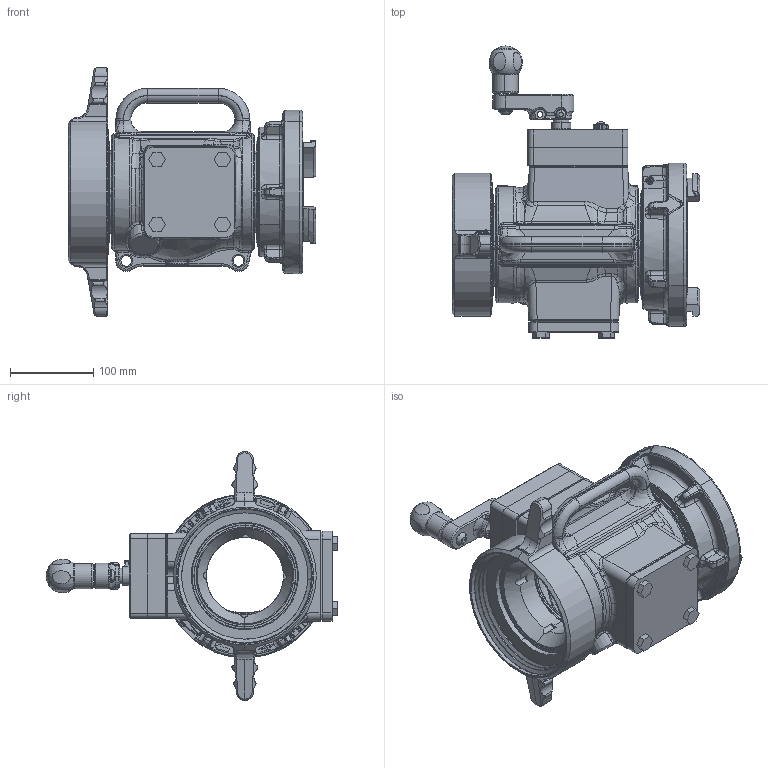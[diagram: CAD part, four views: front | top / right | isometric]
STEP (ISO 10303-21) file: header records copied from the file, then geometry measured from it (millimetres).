
FILE_DESCRIPTION (( 'STEP AP203' ), '1' );
FILE_NAME ('AN6T2T02.STEP', '2017-05-19T12:28:52', ( '' ), ( '' ), 'SwSTEP 2.0', 'SolidWorks 2016', '' );
FILE_SCHEMA (( 'CONFIG_CONTROL_DESIGN' ));
Length unit declared in the file: inch
Products named in the file (1): AN6T2T02
Bounding box: 296.82 x 350.22 x 298.44 mm (x, y, z)
Surface area: 457558.3 mm2 (no closed solid volume)
Topology: 0 solids, 58 shells, 1726 faces, 5706 edges, 3884 vertices
Faces by surface type: bspline 470, plane 440, cylinder 377, cone 209, torus 202, sphere 28
Entity records: 92260 total; most frequent: CARTESIAN_POINT 48626, ORIENTED_EDGE 9298, DIRECTION 7730, EDGE_CURVE 5689, VERTEX_POINT 3882, AXIS2_PLACEMENT_3D 2922, VECTOR 1886, LINE 1886
